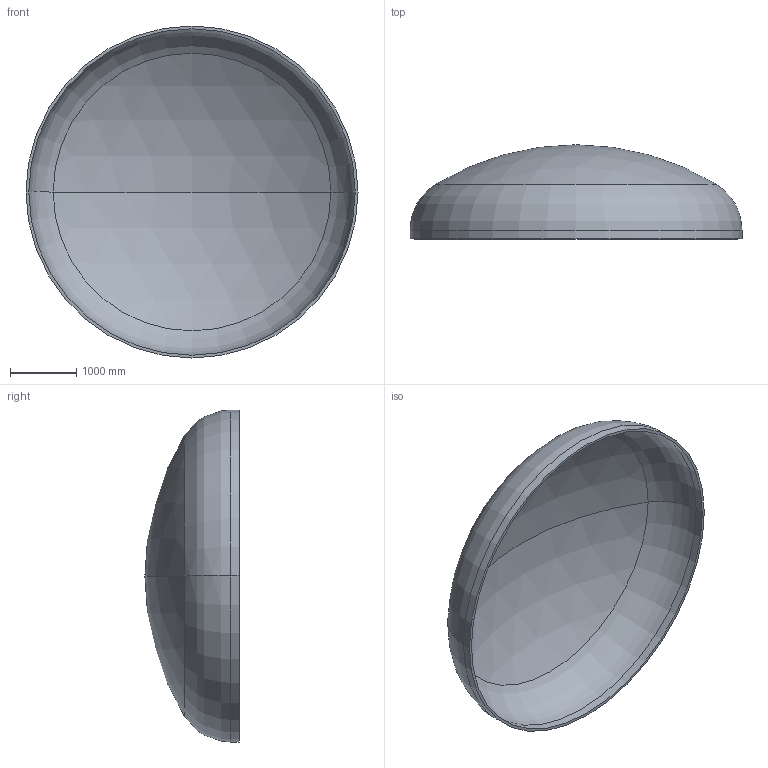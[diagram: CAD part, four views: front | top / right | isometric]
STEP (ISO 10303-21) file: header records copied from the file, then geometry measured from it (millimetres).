
FILE_DESCRIPTION (( 'STEP AP203' ), '1' );
FILE_NAME ('DIN 28013 Korbbogenform_-_Boden DIN 28013 - 5000 x 130 - I - s=42.step', '2016-07-02T00:29:08', ( '' ), ( '' ), 'SwSTEP 2.0', 'SolidWorks 2013', '' );
FILE_SCHEMA (( 'CONFIG_CONTROL_DESIGN' ));
Length unit declared in the file: millimetre
Products named in the file (1): DIN 28013 Korbbogenform_-_Boden DIN 28013 - 5000 x 130 - I - s=42
Bounding box: 5000 x 1418.17 x 5000 mm (x, y, z)
Volume: 1214586312.2 mm3; surface area: 58495308.8 mm2
Topology: 1 solids, 1 shells, 13 faces, 24 edges, 14 vertices
Faces by surface type: torus 4, cylinder 4, sphere 4, plane 1
Entity records: 407 total; most frequent: DIRECTION 72, CARTESIAN_POINT 52, ORIENTED_EDGE 48, AXIS2_PLACEMENT_3D 34, EDGE_CURVE 24, CIRCLE 20, EDGE_LOOP 14, VERTEX_POINT 14
